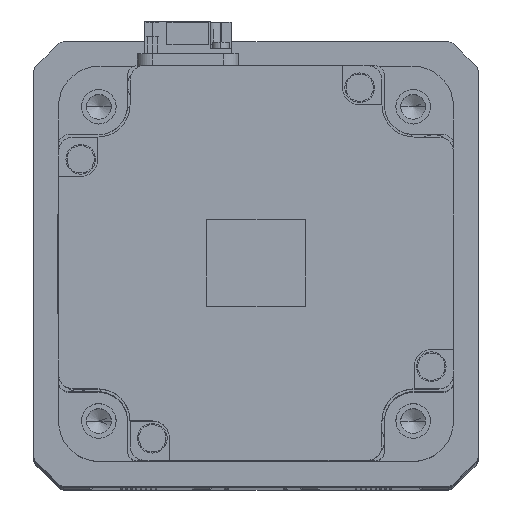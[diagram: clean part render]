
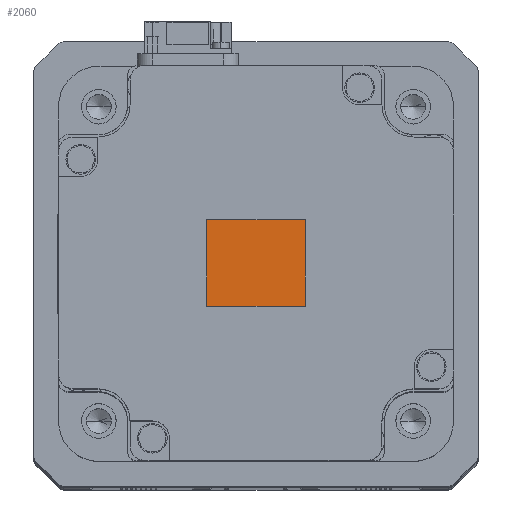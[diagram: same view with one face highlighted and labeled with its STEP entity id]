
A CAD part, top view. The second image highlights one B-rep face of the part: STEP entity #2060.
In plain terms, the highlighted planar face has unit normal (0, 0, 1) as drawn and (0, 0, -1) by its records, which use the part's own axes.
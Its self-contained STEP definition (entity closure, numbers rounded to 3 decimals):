
#2060 = ADVANCED_FACE ( 'NONE', ( #36952 ), #23093, .T. ) ;
#2322 = DIRECTION ( 'NONE',  ( 0., 0., -1. ) ) ;
#3071 = CARTESIAN_POINT ( 'NONE',  ( 10., -8.75, -115.1 ) ) ;
#3925 = CARTESIAN_POINT ( 'NONE',  ( -10., 8.75, -115.1 ) ) ;
#4674 = VERTEX_POINT ( 'NONE', #23039 ) ;
#5314 = VECTOR ( 'NONE', #17084, 1000. ) ;
#6712 = ORIENTED_EDGE ( 'NONE', *, *, #40715, .T. ) ;
#7082 = DIRECTION ( 'NONE',  ( 0., -1., 0. ) ) ;
#10022 = EDGE_CURVE ( 'NONE', #39219, #39854, #30294, .T. ) ;
#12860 = VECTOR ( 'NONE', #28333, 1000. ) ;
#13501 = LINE ( 'NONE', #3071, #5314 ) ;
#17084 = DIRECTION ( 'NONE',  ( -1., 0., 0. ) ) ;
#17714 = EDGE_CURVE ( 'NONE', #39854, #4674, #18021, .T. ) ;
#18021 = LINE ( 'NONE', #36067, #35478 ) ;
#20967 = CARTESIAN_POINT ( 'NONE',  ( 10., 8.75, -115.1 ) ) ;
#22917 = VERTEX_POINT ( 'NONE', #29355 ) ;
#22991 = CARTESIAN_POINT ( 'NONE',  ( -10., 8.75, -115.1 ) ) ;
#23039 = CARTESIAN_POINT ( 'NONE',  ( 10., 8.75, -115.1 ) ) ;
#23093 = PLANE ( 'NONE',  #33090 ) ;
#24063 = ORIENTED_EDGE ( 'NONE', *, *, #28348, .T. ) ;
#24431 = ORIENTED_EDGE ( 'NONE', *, *, #10022, .T. ) ;
#26724 = DIRECTION ( 'NONE',  ( -1., 0., 0. ) ) ;
#26991 = ORIENTED_EDGE ( 'NONE', *, *, #17714, .T. ) ;
#27413 = VECTOR ( 'NONE', #7082, 1000. ) ;
#28333 = DIRECTION ( 'NONE',  ( 0., 1., 0. ) ) ;
#28348 = EDGE_CURVE ( 'NONE', #4674, #22917, #36722, .T. ) ;
#29038 = DIRECTION ( 'NONE',  ( 1., 0., 0. ) ) ;
#29355 = CARTESIAN_POINT ( 'NONE',  ( 10., -8.75, -115.1 ) ) ;
#29634 = EDGE_LOOP ( 'NONE', ( #24431, #26991, #24063, #6712 ) ) ;
#30294 = LINE ( 'NONE', #3925, #12860 ) ;
#32927 = CARTESIAN_POINT ( 'NONE',  ( -10., -8.75, -115.1 ) ) ;
#33090 = AXIS2_PLACEMENT_3D ( 'NONE', #37144, #2322, #26724 ) ;
#35478 = VECTOR ( 'NONE', #29038, 1000. ) ;
#36067 = CARTESIAN_POINT ( 'NONE',  ( 10., 8.75, -115.1 ) ) ;
#36722 = LINE ( 'NONE', #20967, #27413 ) ;
#36952 = FACE_OUTER_BOUND ( 'NONE', #29634, .T. ) ;
#37144 = CARTESIAN_POINT ( 'NONE',  ( 10., -8.75, -115.1 ) ) ;
#39219 = VERTEX_POINT ( 'NONE', #32927 ) ;
#39854 = VERTEX_POINT ( 'NONE', #22991 ) ;
#40715 = EDGE_CURVE ( 'NONE', #22917, #39219, #13501, .T. ) ;
